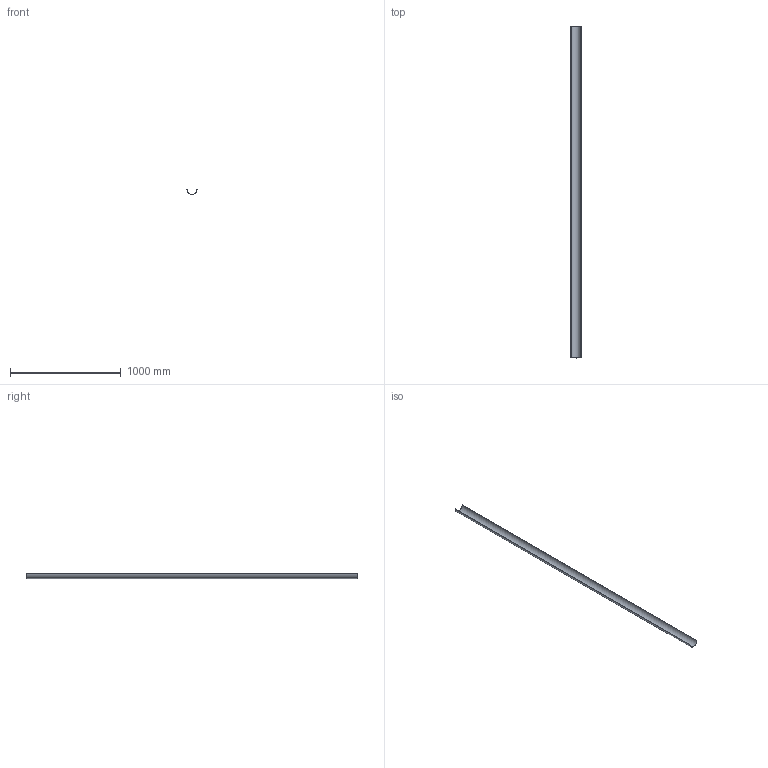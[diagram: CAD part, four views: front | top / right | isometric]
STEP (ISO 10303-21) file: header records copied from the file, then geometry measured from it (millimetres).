
FILE_DESCRIPTION(/* description */ (''),/* implementation_level */ '2;1');
FILE_NAME(/* name */ 'Z:\Geberit\Export\NewStep\366850.stp',/* time_stamp */ '2014-04-02T07:55:00+02:00',/* author */ ('bruh'),/* organization */ (''),/* preprocessor_version */ 'ST-DEVELOPER v15.2',/* originating_system */ 'Autodesk Inventor 2014',/* authorisation */ '');
FILE_SCHEMA (('AUTOMOTIVE_DESIGN { 1 0 10303 214 3 1 1 }'));
Length unit declared in the file: millimetre
Products named in the file (1): 366850
Bounding box: 91.5 x 3000 x 45.75 mm (x, y, z)
Volume: 320737 mm3; surface area: 860012.4 mm2
Topology: 1 solids, 1 shells, 6 faces, 12 edges, 8 vertices
Faces by surface type: plane 4, cylinder 2
Entity records: 187 total; most frequent: DIRECTION 30, CARTESIAN_POINT 27, ORIENTED_EDGE 24, EDGE_CURVE 12, AXIS2_PLACEMENT_3D 11, LINE 8, VECTOR 8, VERTEX_POINT 8
